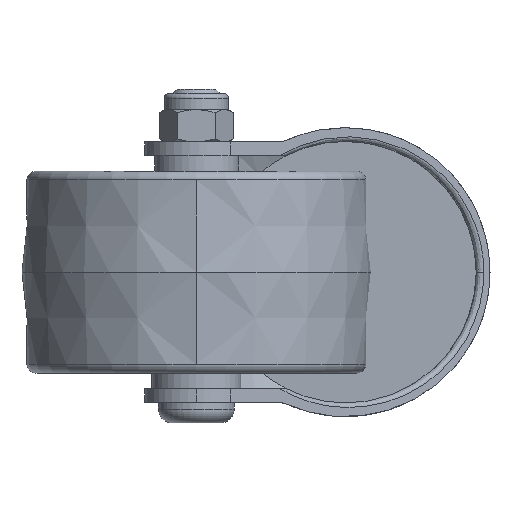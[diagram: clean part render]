
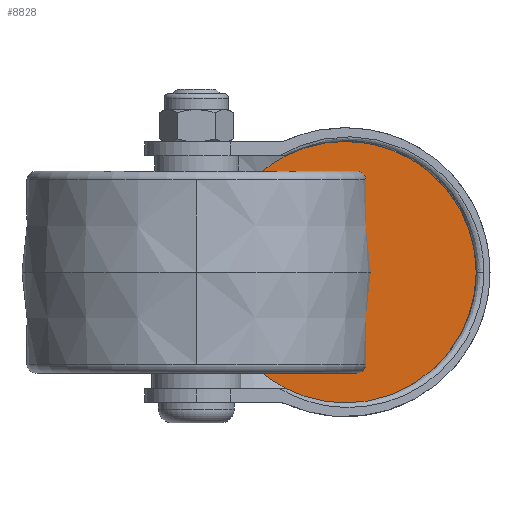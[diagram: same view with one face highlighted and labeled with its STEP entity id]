
A CAD part, front view. The second image highlights one B-rep face of the part: STEP entity #8828.
In plain terms, the highlighted planar face has unit normal (0, -1, 0).
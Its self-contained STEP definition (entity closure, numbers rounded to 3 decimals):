
#356 = EDGE_CURVE ( 'NONE', #6309, #5977, #4894, .T. ) ;
#522 = PLANE ( 'NONE',  #2070 ) ;
#582 = DIRECTION ( 'NONE',  ( 0., -1., 0. ) ) ;
#911 = CARTESIAN_POINT ( 'NONE',  ( 19.574, 50., 25.4 ) ) ;
#1261 = DIRECTION ( 'NONE',  ( 0., 1., 0. ) ) ;
#2009 = DIRECTION ( 'NONE',  ( 0., 1., 0. ) ) ;
#2070 = AXIS2_PLACEMENT_3D ( 'NONE', #4862, #582, #5566 ) ;
#2182 = ORIENTED_EDGE ( 'NONE', *, *, #2461, .F. ) ;
#2461 = EDGE_CURVE ( 'NONE', #5977, #9126, #7772, .T. ) ;
#2477 = EDGE_CURVE ( 'NONE', #9126, #3431, #5926, .T. ) ;
#3043 = CIRCLE ( 'NONE', #7446, 28.5 ) ;
#3085 = AXIS2_PLACEMENT_3D ( 'NONE', #6251, #2009, #6952 ) ;
#3261 = EDGE_CURVE ( 'NONE', #3431, #6309, #3043, .T. ) ;
#3431 = VERTEX_POINT ( 'NONE', #8644 ) ;
#3461 = CARTESIAN_POINT ( 'NONE',  ( 32.5, 50., 0. ) ) ;
#3488 = EDGE_LOOP ( 'NONE', ( #2182, #7242, #5616, #7677 ) ) ;
#3803 = CARTESIAN_POINT ( 'NONE',  ( -4.166, 50., 13.319 ) ) ;
#4158 = DIRECTION ( 'NONE',  ( 0., 0., 1. ) ) ;
#4480 = CARTESIAN_POINT ( 'NONE',  ( -4.166, 50., -13.319 ) ) ;
#4800 = CARTESIAN_POINT ( 'NONE',  ( 19.574, 50., -25.4 ) ) ;
#4862 = CARTESIAN_POINT ( 'NONE',  ( 3.658, 50., 28.842 ) ) ;
#4894 =( BOUNDED_CURVE ( )  B_SPLINE_CURVE ( 3, ( #8032, #4480, #3803, #8648 ),
 .UNSPECIFIED., .F., .F. ) 
 B_SPLINE_CURVE_WITH_KNOTS ( ( 4, 4 ),
 ( 0., 0.062 ),
 .UNSPECIFIED. ) 
 CURVE ( )  GEOMETRIC_REPRESENTATION_ITEM ( )  RATIONAL_B_SPLINE_CURVE ( ( 0.973, 0.619, 0.619, 0.973 ) ) 
 REPRESENTATION_ITEM ( '' )  );
#5516 = CARTESIAN_POINT ( 'NONE',  ( 32.5, 50., 0. ) ) ;
#5566 = DIRECTION ( 'NONE',  ( 0., 0., -1. ) ) ;
#5616 = ORIENTED_EDGE ( 'NONE', *, *, #3261, .F. ) ;
#5783 = FACE_OUTER_BOUND ( 'NONE', #3488, .T. ) ;
#5921 = AXIS2_PLACEMENT_3D ( 'NONE', #3461, #8370, #4158 ) ;
#5926 = CIRCLE ( 'NONE', #5921, 28.5 ) ;
#5977 = VERTEX_POINT ( 'NONE', #911 ) ;
#6217 = DIRECTION ( 'NONE',  ( 0., 0., 1. ) ) ;
#6251 = CARTESIAN_POINT ( 'NONE',  ( 32.5, 50., 0. ) ) ;
#6309 = VERTEX_POINT ( 'NONE', #4800 ) ;
#6952 = DIRECTION ( 'NONE',  ( 0., 0., 1. ) ) ;
#7242 = ORIENTED_EDGE ( 'NONE', *, *, #356, .F. ) ;
#7446 = AXIS2_PLACEMENT_3D ( 'NONE', #5516, #1261, #6217 ) ;
#7677 = ORIENTED_EDGE ( 'NONE', *, *, #2477, .F. ) ;
#7772 = CIRCLE ( 'NONE', #3085, 28.5 ) ;
#8032 = CARTESIAN_POINT ( 'NONE',  ( 19.574, 50., -25.4 ) ) ;
#8147 = CARTESIAN_POINT ( 'NONE',  ( 32.5, 50., 28.5 ) ) ;
#8370 = DIRECTION ( 'NONE',  ( 0., 1., 0. ) ) ;
#8644 = CARTESIAN_POINT ( 'NONE',  ( 32.5, 50., -28.5 ) ) ;
#8648 = CARTESIAN_POINT ( 'NONE',  ( 19.574, 50., 25.4 ) ) ;
#8828 = ADVANCED_FACE ( 'NONE', ( #5783 ), #522, .T. ) ;
#9126 = VERTEX_POINT ( 'NONE', #8147 ) ;
